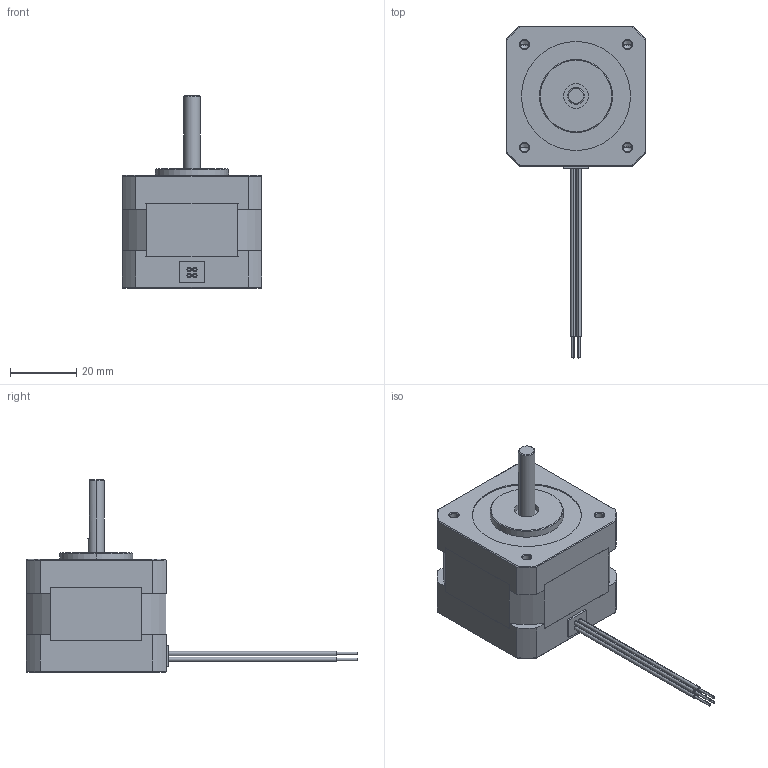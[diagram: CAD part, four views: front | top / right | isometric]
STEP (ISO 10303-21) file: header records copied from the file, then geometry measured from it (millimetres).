
FILE_DESCRIPTION (( 'STEP AP214' ), '1' );
FILE_NAME ('17Y102S-LW4.STEP', '2010-05-11T20:56:30', ( 'Tim Raines' ), ( 'Anaheim Automation' ), 'SwSTEP 2.0', 'SolidWorks 2010', '' );
FILE_SCHEMA (( 'AUTOMOTIVE_DESIGN' ));
Length unit declared in the file: inch
Products named in the file (1): 17Y102S-LW4
Bounding box: 42.16 x 99.95 x 57.86 mm (x, y, z)
Volume: 59376 mm3; surface area: 11186.4 mm2
Topology: 1 solids, 1 shells, 232 faces, 549 edges, 344 vertices
Faces by surface type: plane 113, cylinder 72, cone 39, torus 8
Entity records: 9529 total; most frequent: DIRECTION 1182, CARTESIAN_POINT 1172, ORIENTED_EDGE 1082, EDGE_CURVE 541, AXIS2_PLACEMENT_3D 426, VERTEX_POINT 344, VECTOR 330, LINE 330
